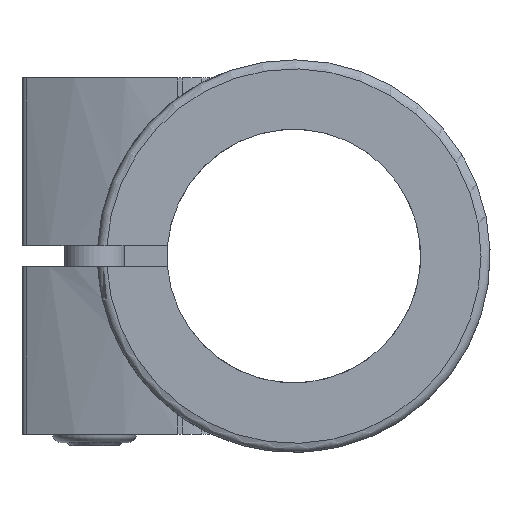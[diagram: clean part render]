
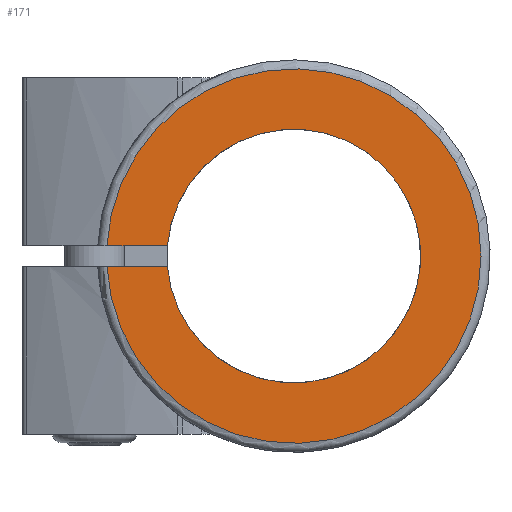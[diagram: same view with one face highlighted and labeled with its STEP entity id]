
A CAD part, left-side view. The second image highlights one B-rep face of the part: STEP entity #171.
In plain terms, the highlighted planar face has unit normal (-1, 0, 0).
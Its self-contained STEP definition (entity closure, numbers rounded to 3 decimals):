
#171 = ADVANCED_FACE( '', ( #460 ), #461, .F. );
#460 = FACE_OUTER_BOUND( '', #820, .T. );
#461 = PLANE( '', #821 );
#820 = EDGE_LOOP( '', ( #1722, #1723, #1724, #1725 ) );
#821 = AXIS2_PLACEMENT_3D( '', #1726, #1727, #1728 );
#1722 = ORIENTED_EDGE( '', *, *, #2583, .F. );
#1723 = ORIENTED_EDGE( '', *, *, #2297, .F. );
#1724 = ORIENTED_EDGE( '', *, *, #2585, .F. );
#1725 = ORIENTED_EDGE( '', *, *, #2311, .F. );
#1726 = CARTESIAN_POINT( '', ( 0., 0., 0. ) );
#1727 = DIRECTION( '', ( 1., 0., 0. ) );
#1728 = DIRECTION( '', ( 0., 0., -1. ) );
#2297 = EDGE_CURVE( '', #2736, #2737, #2738, .T. );
#2311 = EDGE_CURVE( '', #2763, #2765, #2766, .T. );
#2583 = EDGE_CURVE( '', #2737, #2763, #3241, .F. );
#2585 = EDGE_CURVE( '', #2765, #2736, #3243, .T. );
#2736 = VERTEX_POINT( '', #3472 );
#2737 = VERTEX_POINT( '', #3473 );
#2738 = LINE( '', #3474, #3475 );
#2763 = VERTEX_POINT( '', #3519 );
#2765 = VERTEX_POINT( '', #3522 );
#2766 = LINE( '', #3523, #3524 );
#3241 = CIRCLE( '', #4389, 21. );
#3243 = CIRCLE( '', #4391, 31. );
#3472 = CARTESIAN_POINT( '', ( 0., 30.951, -1.75 ) );
#3473 = CARTESIAN_POINT( '', ( 0., 20.927, -1.75 ) );
#3474 = CARTESIAN_POINT( '', ( 0., 0., -1.75 ) );
#3475 = VECTOR( '', #4787, 1000. );
#3519 = CARTESIAN_POINT( '', ( 0., 20.927, 1.75 ) );
#3522 = CARTESIAN_POINT( '', ( 0., 30.951, 1.75 ) );
#3523 = CARTESIAN_POINT( '', ( 0., 0., 1.75 ) );
#3524 = VECTOR( '', #4810, 1000. );
#4389 = AXIS2_PLACEMENT_3D( '', #5223, #5224, #5225 );
#4391 = AXIS2_PLACEMENT_3D( '', #5229, #5230, #5231 );
#4787 = DIRECTION( '', ( 0., -1., 0. ) );
#4810 = DIRECTION( '', ( 0., 1., 0. ) );
#5223 = CARTESIAN_POINT( '', ( 0., 0., 0. ) );
#5224 = DIRECTION( '', ( 1., 0., 0. ) );
#5225 = DIRECTION( '', ( 0., 0., -1. ) );
#5229 = CARTESIAN_POINT( '', ( 0., 0., 0. ) );
#5230 = DIRECTION( '', ( 1., 0., 0. ) );
#5231 = DIRECTION( '', ( 0., 0., -1. ) );
